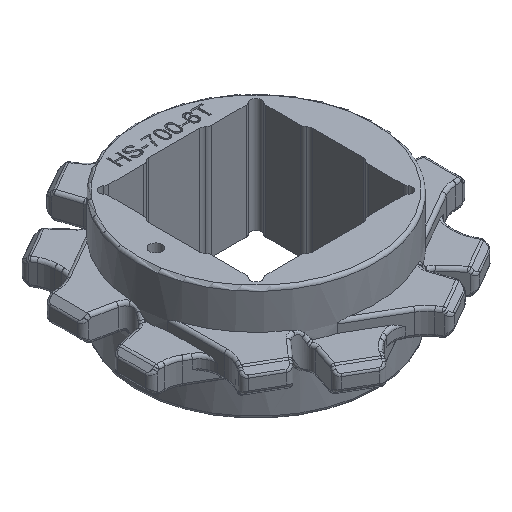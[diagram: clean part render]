
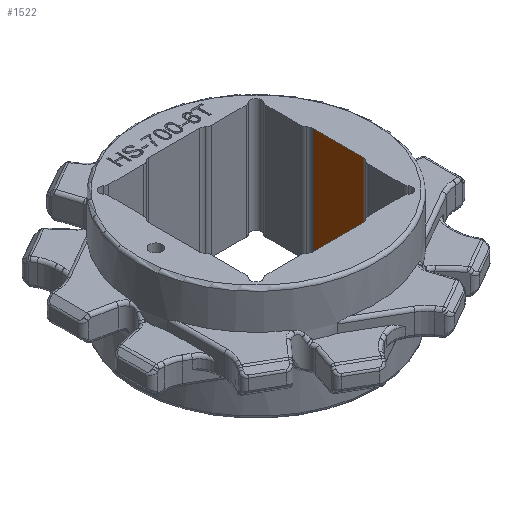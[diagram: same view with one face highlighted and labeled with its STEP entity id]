
A CAD part, isometric view. The second image highlights one B-rep face of the part: STEP entity #1522.
In plain terms, the highlighted planar face has unit normal (-1, 0, 0).
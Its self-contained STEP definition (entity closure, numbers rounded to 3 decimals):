
#494=FACE_OUTER_BOUND('',#4228,.T.);
#1522=ADVANCED_FACE('',(#494),#2112,.F.);
#2112=PLANE('',#10918);
#2788=LINE('',#14987,#3411);
#2808=LINE('',#15214,#3431);
#3285=LINE('',#17755,#3908);
#3286=LINE('',#17756,#3909);
#3411=VECTOR('',#11736,1.);
#3431=VECTOR('',#11800,1.);
#3908=VECTOR('',#13233,1.);
#3909=VECTOR('',#13234,1.);
#4228=EDGE_LOOP('',(#5878,#5879,#5880,#5881));
#5878=ORIENTED_EDGE('',*,*,#9665,.F.);
#5879=ORIENTED_EDGE('',*,*,#8787,.F.);
#5880=ORIENTED_EDGE('',*,*,#9666,.F.);
#5881=ORIENTED_EDGE('',*,*,#8736,.F.);
#7830=VERTEX_POINT('',#14986);
#7831=VERTEX_POINT('',#14988);
#7881=VERTEX_POINT('',#15213);
#7882=VERTEX_POINT('',#15215);
#8736=EDGE_CURVE('',#7830,#7831,#2788,.T.);
#8787=EDGE_CURVE('',#7881,#7882,#2808,.T.);
#9665=EDGE_CURVE('',#7882,#7830,#3285,.T.);
#9666=EDGE_CURVE('',#7831,#7881,#3286,.T.);
#10918=AXIS2_PLACEMENT_3D('',#17757,#13235,#13236);
#11736=DIRECTION('',(0.,-1.,0.));
#11800=DIRECTION('',(0.,1.,0.));
#13233=DIRECTION('',(0.,0.,1.));
#13234=DIRECTION('',(0.,0.,-1.));
#13235=DIRECTION('',(1.,0.,0.));
#13236=DIRECTION('',(0.,0.,-1.));
#14986=CARTESIAN_POINT('',(-40.88,230.203,9.25));
#14987=CARTESIAN_POINT('',(-40.88,226.069,9.25));
#14988=CARTESIAN_POINT('',(-40.88,221.935,9.25));
#15213=CARTESIAN_POINT('',(-40.88,221.935,-9.25));
#15214=CARTESIAN_POINT('',(-40.88,214.176,-9.25));
#15215=CARTESIAN_POINT('',(-40.88,230.203,-9.25));
#17755=CARTESIAN_POINT('',(-40.88,230.203,10.));
#17756=CARTESIAN_POINT('',(-40.88,221.935,-10.));
#17757=CARTESIAN_POINT('',(-40.88,214.176,-10.));
